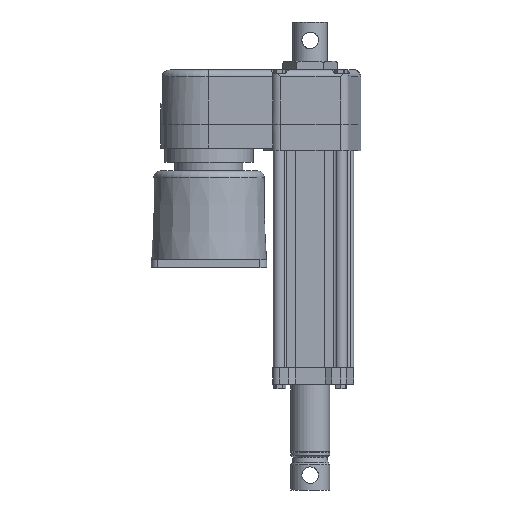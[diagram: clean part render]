
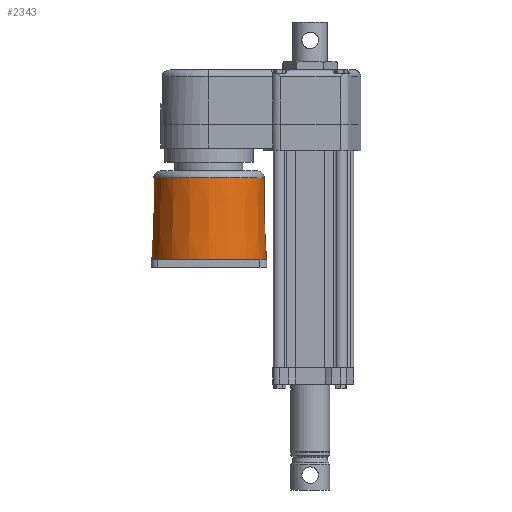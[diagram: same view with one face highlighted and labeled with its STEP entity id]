
A CAD part, left-side view. The second image highlights one B-rep face of the part: STEP entity #2343.
In plain terms, the highlighted conical face has half-angle 1.614 degrees and reference radius 42.5 mm.
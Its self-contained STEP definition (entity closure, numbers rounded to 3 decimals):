
#1843 = EDGE_CURVE ( 'NONE', #11516, #11516, #5463, .T. ) ;
#1848 = EDGE_CURVE ( 'NONE', #11520, #11520, #5471, .T. ) ;
#2343 = ADVANCED_FACE ( 'NONE', ( #9059, #9052 ), #9058, .T. ) ;
#3549 = EDGE_LOOP ( 'NONE', ( #3591 ) ) ;
#3591 = ORIENTED_EDGE ( 'NONE', *, *, #1848, .T. ) ;
#3592 = ORIENTED_EDGE ( 'NONE', *, *, #1843, .F. ) ;
#3776 = EDGE_LOOP ( 'NONE', ( #3592 ) ) ;
#5463 = CIRCLE ( 'NONE', #5934, 42.331 ) ;
#5471 = CIRCLE ( 'NONE', #5938, 40.637 ) ;
#5934 = AXIS2_PLACEMENT_3D ( 'NONE', #8210, #8218, #8219 ) ;
#5938 = AXIS2_PLACEMENT_3D ( 'NONE', #8229, #8231, #8232 ) ;
#6306 = AXIS2_PLACEMENT_3D ( 'NONE', #10748, #10749, #10738 ) ;
#8210 = CARTESIAN_POINT ( 'NONE',  ( 0., 74.4, -11.3 ) ) ;
#8218 = DIRECTION ( 'NONE',  ( 0., 0., -1. ) ) ;
#8219 = DIRECTION ( 'NONE',  ( -1., 0., 0. ) ) ;
#8229 = CARTESIAN_POINT ( 'NONE',  ( 0., 74.4, 48.841 ) ) ;
#8231 = DIRECTION ( 'NONE',  ( 0., 0., -1. ) ) ;
#8232 = DIRECTION ( 'NONE',  ( 1., 0., 0. ) ) ;
#9052 = FACE_OUTER_BOUND ( 'NONE', #3776, .T. ) ;
#9058 = CONICAL_SURFACE ( 'NONE', #6306, 42.5, 0.028 ) ;
#9059 = FACE_BOUND ( 'NONE', #3549, .T. ) ;
#10738 = DIRECTION ( 'NONE',  ( -1., 0., 0. ) ) ;
#10748 = CARTESIAN_POINT ( 'NONE',  ( 0., 74.4, -17.3 ) ) ;
#10749 = DIRECTION ( 'NONE',  ( 0., 0., -1. ) ) ;
#11516 = VERTEX_POINT ( 'NONE', #11517 ) ;
#11517 = CARTESIAN_POINT ( 'NONE',  ( -42.331, 74.4, -11.3 ) ) ;
#11520 = VERTEX_POINT ( 'NONE', #11521 ) ;
#11521 = CARTESIAN_POINT ( 'NONE',  ( 40.637, 74.4, 48.841 ) ) ;
